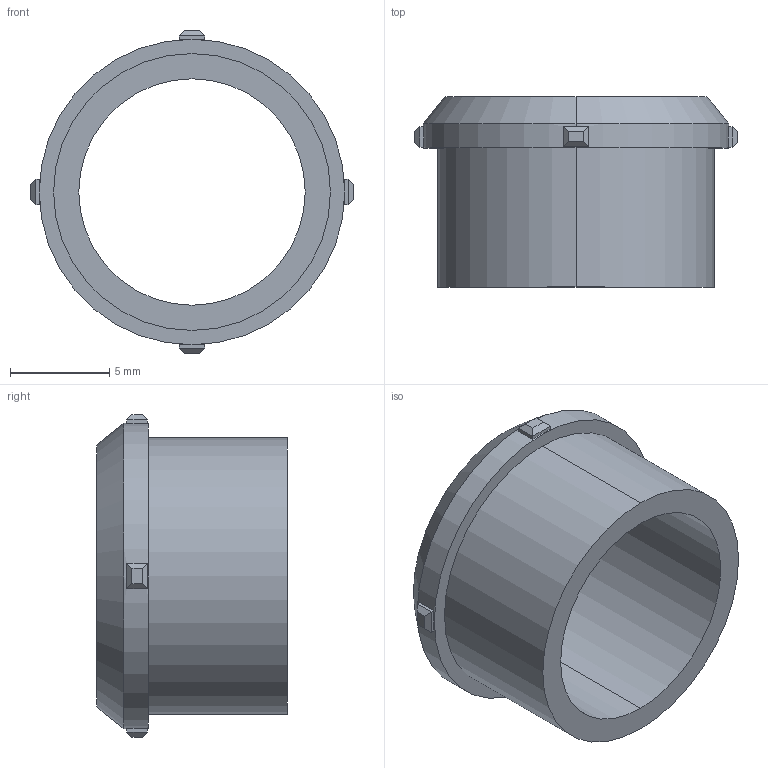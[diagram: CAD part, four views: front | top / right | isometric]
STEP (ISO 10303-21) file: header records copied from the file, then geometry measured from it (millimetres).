
FILE_DESCRIPTION(('FreeCAD Model'),'2;1');
FILE_NAME('D:/2015 new/openBCI/M3 Cad/M3K parts/M3K_Spring Casing.step', '2015-11-05T13:36:19',('FreeCAD'),('FreeCAD'), 'Open CASCADE STEP processor 6.3','FreeCAD','Unknown');
FILE_SCHEMA(('AUTOMOTIVE_DESIGN_CC2 { 1 2 10303 214 -1 1 5 4 }'));
Length unit declared in the file: millimetre
Products named in the file (1): M3_Electrode_Holder_006
Bounding box: 16.26 x 9.61 x 16.26 mm (x, y, z)
Volume: 540.4 mm3; surface area: 914.9 mm2
Topology: 1 solids, 1 shells, 47 faces, 108 edges, 66 vertices
Faces by surface type: plane 39, cylinder 6, cone 2
Entity records: 2817 total; most frequent: CARTESIAN_POINT 682, DIRECTION 374, LINE 218, VECTOR 218, ORIENTED_EDGE 216, PCURVE 216, DEFINITIONAL_REPRESENTATION 216, EDGE_CURVE 108
